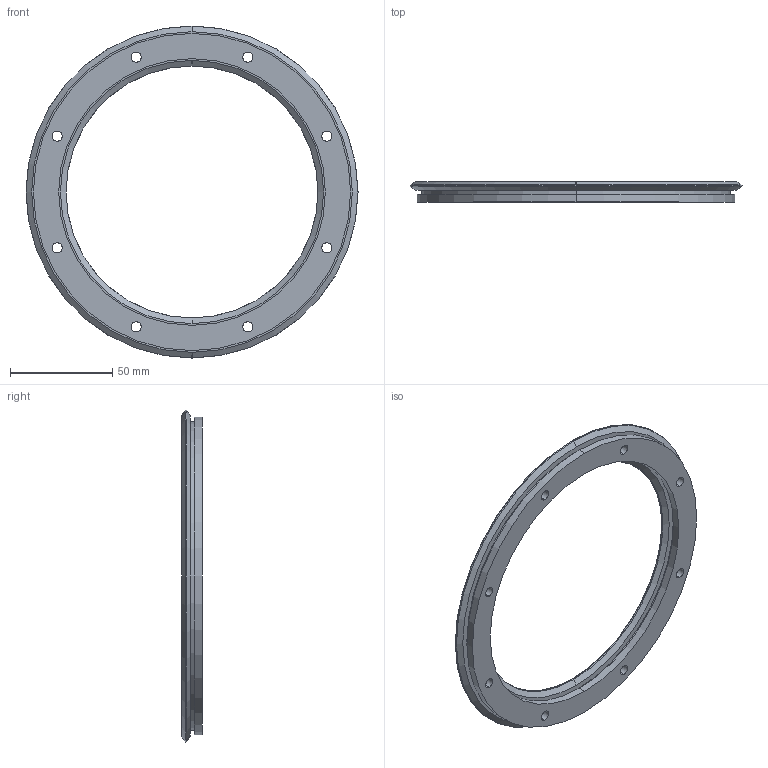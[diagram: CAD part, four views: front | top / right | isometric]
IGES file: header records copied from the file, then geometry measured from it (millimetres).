
Start section: 3D InterOp IGES (v. 2020 1.0.1), Spatial Corp. Copyright (c) 1999-2017.
Global section: file name: r20_143_r360.igs; native system: Spatial Corp.; preprocessor: 3D InterOp ACIS/IGES; author: TraceParts; organization: TraceParts S.A.; date: 20220624.023726; units: millimetre
Bounding box: 162.63 x 10 x 162.63 mm (x, y, z)
Surface area: 29083.1 mm2 (no closed solid volume)
Topology: 0 solids, 0 shells, 70 faces, 312 edges, 312 vertices
Faces by surface type: revolution 56, extrusion 14
